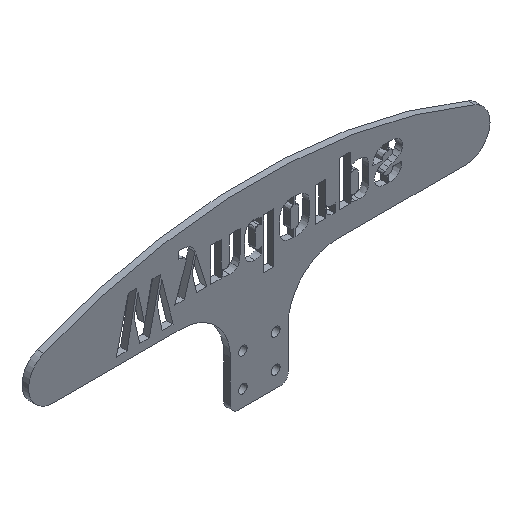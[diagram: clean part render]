
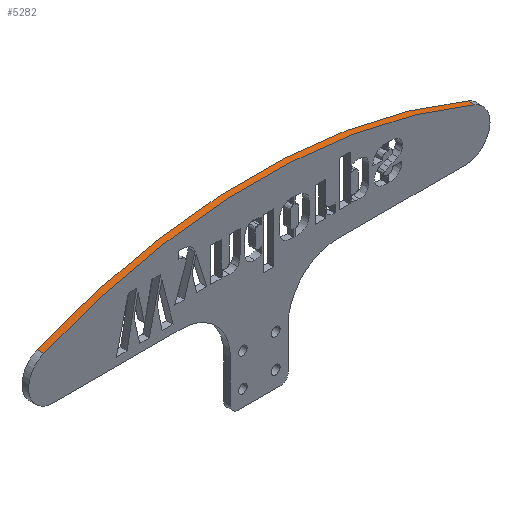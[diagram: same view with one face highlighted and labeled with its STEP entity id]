
A CAD part, isometric view. The second image highlights one B-rep face of the part: STEP entity #5282.
In plain terms, the highlighted cylindrical face has radius 340 mm (diameter 680 mm), a partial arc.
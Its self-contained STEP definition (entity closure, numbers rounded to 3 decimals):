
#762=CARTESIAN_POINT('',(0.,0.,-315.));
#763=DIRECTION('',(0.,1.,0.));
#764=DIRECTION('',(-0.385,0.,0.923));
#765=AXIS2_PLACEMENT_3D('',#762,#763,#764);
#1440=CARTESIAN_POINT('',(0.,4.,-315.));
#1441=DIRECTION('',(0.,1.,0.));
#1442=DIRECTION('',(-0.385,0.,0.923));
#1443=AXIS2_PLACEMENT_3D('',#1440,#1441,#1442);
#2041=DIRECTION('',(0.,1.,0.));
#2042=VECTOR('',#2041,4.);
#2043=CARTESIAN_POINT('',(130.769,0.,-1.154));
#2044=LINE('',#2043,#2042);
#2045=DIRECTION('',(0.,1.,0.));
#2046=VECTOR('',#2045,4.);
#2047=CARTESIAN_POINT('',(-130.769,0.,-1.154));
#2048=LINE('',#2047,#2046);
#2115=CARTESIAN_POINT('',(130.769,0.,-1.154));
#2117=VERTEX_POINT('',#2115);
#2120=CARTESIAN_POINT('',(-130.769,0.,-1.154));
#2122=VERTEX_POINT('',#2120);
#2123=CARTESIAN_POINT('',(130.769,4.,-1.154));
#2125=VERTEX_POINT('',#2123);
#2128=CARTESIAN_POINT('',(-130.769,4.,-1.154));
#2130=VERTEX_POINT('',#2128);
#5270=CARTESIAN_POINT('',(0.,0.,-315.));
#5271=DIRECTION('',(0.,1.,0.));
#5272=DIRECTION('',(1.,0.,0.));
#5273=AXIS2_PLACEMENT_3D('',#5270,#5271,#5272);
#5274=CYLINDRICAL_SURFACE('',#5273,340.);
#5275=ORIENTED_EDGE('',*,*,#2626,.F.);
#5277=ORIENTED_EDGE('',*,*,#5276,.T.);
#5278=ORIENTED_EDGE('',*,*,#3032,.T.);
#5279=ORIENTED_EDGE('',*,*,#5263,.F.);
#5280=EDGE_LOOP('',(#5275,#5277,#5278,#5279));
#5281=FACE_OUTER_BOUND('',#5280,.F.);
#5282=ADVANCED_FACE('',(#5281),#5274,.T.);
#766=CIRCLE('',#765,340.);
#1444=CIRCLE('',#1443,340.);
#2626=EDGE_CURVE('',#2122,#2117,#766,.T.);
#3032=EDGE_CURVE('',#2130,#2125,#1444,.T.);
#5263=EDGE_CURVE('',#2117,#2125,#2044,.T.);
#5276=EDGE_CURVE('',#2122,#2130,#2048,.T.);
